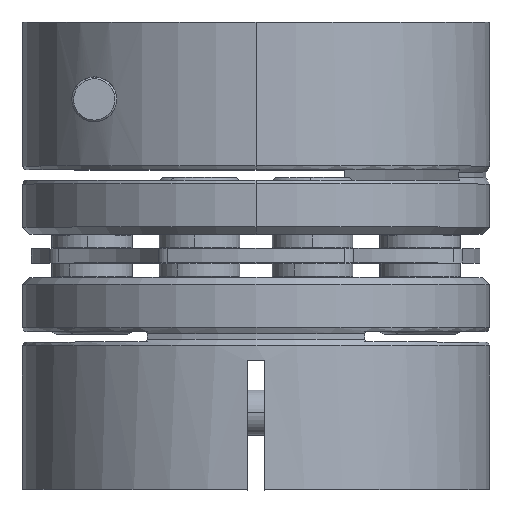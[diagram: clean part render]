
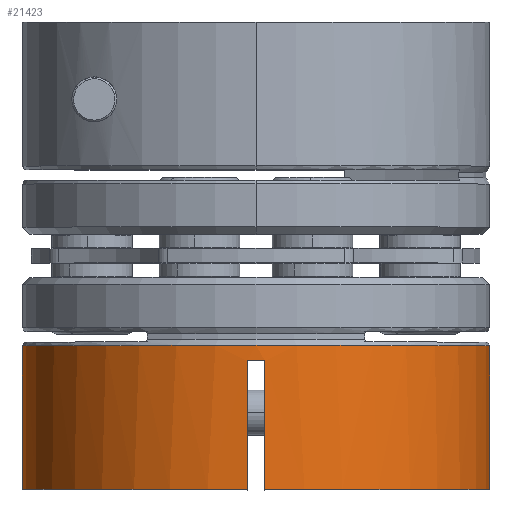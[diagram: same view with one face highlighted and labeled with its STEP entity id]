
A CAD part, top view. The second image highlights one B-rep face of the part: STEP entity #21423.
In plain terms, the highlighted cylindrical face has radius 13 mm (diameter 26 mm), a partial arc.
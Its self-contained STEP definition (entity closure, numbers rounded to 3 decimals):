
#439 = VECTOR ( 'NONE', #16885, 1000. ) ;
#1028 = CARTESIAN_POINT ( 'NONE',  ( -11.245, -26.289, 0. ) ) ;
#1146 = CARTESIAN_POINT ( 'NONE',  ( 1.755, -26.289, 0. ) ) ;
#1512 = EDGE_CURVE ( 'NONE', #10777, #10640, #19569, .T. ) ;
#1687 = ORIENTED_EDGE ( 'NONE', *, *, #4155, .T. ) ;
#2393 = EDGE_CURVE ( 'NONE', #21678, #14353, #13408, .T. ) ;
#2636 = CARTESIAN_POINT ( 'NONE',  ( 2.255, -14.489, 12.99 ) ) ;
#3364 = CARTESIAN_POINT ( 'NONE',  ( 1.922, -19.16, 13.003 ) ) ;
#4155 = EDGE_CURVE ( 'NONE', #19294, #14353, #15499, .T. ) ;
#4257 = EDGE_CURVE ( 'NONE', #16967, #18627, #15270, .T. ) ;
#4694 = EDGE_CURVE ( 'NONE', #18627, #18377, #12434, .T. ) ;
#5955 = CARTESIAN_POINT ( 'NONE',  ( 14.755, -18.289, 0. ) ) ;
#6488 = CARTESIAN_POINT ( 'NONE',  ( 1.255, -14.489, 12.99 ) ) ;
#6490 = CARTESIAN_POINT ( 'NONE',  ( 14.755, -56.94, 0. ) ) ;
#6807 = CARTESIAN_POINT ( 'NONE',  ( 1.589, -19.16, 13.003 ) ) ;
#7758 = LINE ( 'NONE', #8854, #15550 ) ;
#8068 = DIRECTION ( 'NONE',  ( -1., 0., 0. ) ) ;
#8175 = ORIENTED_EDGE ( 'NONE', *, *, #4694, .T. ) ;
#8436 = CARTESIAN_POINT ( 'NONE',  ( 2.255, -26.289, 12.99 ) ) ;
#8718 = AXIS2_PLACEMENT_3D ( 'NONE', #20443, #18719, #8068 ) ;
#8854 = CARTESIAN_POINT ( 'NONE',  ( -11.245, -56.94, 0. ) ) ;
#9636 = EDGE_CURVE ( 'NONE', #19294, #18377, #14730, .T. ) ;
#9965 = DIRECTION ( 'NONE',  ( 0., -1., 0. ) ) ;
#9970 = DIRECTION ( 'NONE',  ( 0., 1., 0. ) ) ;
#10062 = AXIS2_PLACEMENT_3D ( 'NONE', #15319, #17199, #18890 ) ;
#10341 = CARTESIAN_POINT ( 'NONE',  ( 1.755, -18.289, 0. ) ) ;
#10489 = ORIENTED_EDGE ( 'NONE', *, *, #1512, .F. ) ;
#10640 = VERTEX_POINT ( 'NONE', #1028 ) ;
#10777 = VERTEX_POINT ( 'NONE', #17543 ) ;
#12158 = AXIS2_PLACEMENT_3D ( 'NONE', #1146, #15240, #20696 ) ;
#12434 = LINE ( 'NONE', #2636, #439 ) ;
#12494 = CARTESIAN_POINT ( 'NONE',  ( 2.255, -19.154, 12.99 ) ) ;
#12499 = EDGE_LOOP ( 'NONE', ( #22356, #1687, #17840, #21715, #10489, #14968, #14216, #8175 ) ) ;
#13408 = CIRCLE ( 'NONE', #21527, 13. ) ;
#14043 = CARTESIAN_POINT ( 'NONE',  ( 1.255, -19.154, 12.99 ) ) ;
#14135 = LINE ( 'NONE', #6488, #15233 ) ;
#14216 = ORIENTED_EDGE ( 'NONE', *, *, #4257, .T. ) ;
#14353 = VERTEX_POINT ( 'NONE', #5955 ) ;
#14730 = CIRCLE ( 'NONE', #10062, 13. ) ;
#14968 = ORIENTED_EDGE ( 'NONE', *, *, #18818, .F. ) ;
#15233 = VECTOR ( 'NONE', #9965, 1000. ) ;
#15240 = DIRECTION ( 'NONE',  ( 0., -1., 0. ) ) ;
#15270 = B_SPLINE_CURVE_WITH_KNOTS ( 'NONE', 3,
 ( #14043, #6807, #3364, #21025 ),
 .UNSPECIFIED., .F., .F.,
 ( 4, 4 ),
 ( 0., 0.001 ),
 .UNSPECIFIED. ) ;
#15319 = CARTESIAN_POINT ( 'NONE',  ( 1.755, -26.289, 0. ) ) ;
#15388 = FACE_OUTER_BOUND ( 'NONE', #12499, .T. ) ;
#15499 = LINE ( 'NONE', #6490, #20501 ) ;
#15550 = VECTOR ( 'NONE', #23062, 1000. ) ;
#16414 = CARTESIAN_POINT ( 'NONE',  ( 14.755, -26.289, 0. ) ) ;
#16885 = DIRECTION ( 'NONE',  ( 0., -1., 0. ) ) ;
#16967 = VERTEX_POINT ( 'NONE', #19004 ) ;
#17199 = DIRECTION ( 'NONE',  ( 0., -1., 0. ) ) ;
#17543 = CARTESIAN_POINT ( 'NONE',  ( 1.255, -26.289, 12.99 ) ) ;
#17840 = ORIENTED_EDGE ( 'NONE', *, *, #2393, .F. ) ;
#17935 = CARTESIAN_POINT ( 'NONE',  ( -11.245, -18.289, 0. ) ) ;
#18073 = EDGE_CURVE ( 'NONE', #10640, #21678, #7758, .T. ) ;
#18377 = VERTEX_POINT ( 'NONE', #8436 ) ;
#18453 = CYLINDRICAL_SURFACE ( 'NONE', #8718, 13. ) ;
#18627 = VERTEX_POINT ( 'NONE', #12494 ) ;
#18719 = DIRECTION ( 'NONE',  ( 0., 1., 0. ) ) ;
#18818 = EDGE_CURVE ( 'NONE', #16967, #10777, #14135, .T. ) ;
#18890 = DIRECTION ( 'NONE',  ( 1., 0., 0. ) ) ;
#19004 = CARTESIAN_POINT ( 'NONE',  ( 1.255, -19.154, 12.99 ) ) ;
#19138 = DIRECTION ( 'NONE',  ( 0., 1., 0. ) ) ;
#19294 = VERTEX_POINT ( 'NONE', #16414 ) ;
#19569 = CIRCLE ( 'NONE', #12158, 13. ) ;
#20443 = CARTESIAN_POINT ( 'NONE',  ( 1.755, -56.94, 0. ) ) ;
#20501 = VECTOR ( 'NONE', #9970, 1000. ) ;
#20696 = DIRECTION ( 'NONE',  ( 1., 0., 0. ) ) ;
#21025 = CARTESIAN_POINT ( 'NONE',  ( 2.255, -19.154, 12.99 ) ) ;
#21423 = ADVANCED_FACE ( 'NONE', ( #15388 ), #18453, .T. ) ;
#21527 = AXIS2_PLACEMENT_3D ( 'NONE', #10341, #19138, #22531 ) ;
#21678 = VERTEX_POINT ( 'NONE', #17935 ) ;
#21715 = ORIENTED_EDGE ( 'NONE', *, *, #18073, .F. ) ;
#22356 = ORIENTED_EDGE ( 'NONE', *, *, #9636, .F. ) ;
#22531 = DIRECTION ( 'NONE',  ( -1., 0., 0. ) ) ;
#23062 = DIRECTION ( 'NONE',  ( 0., 1., 0. ) ) ;
